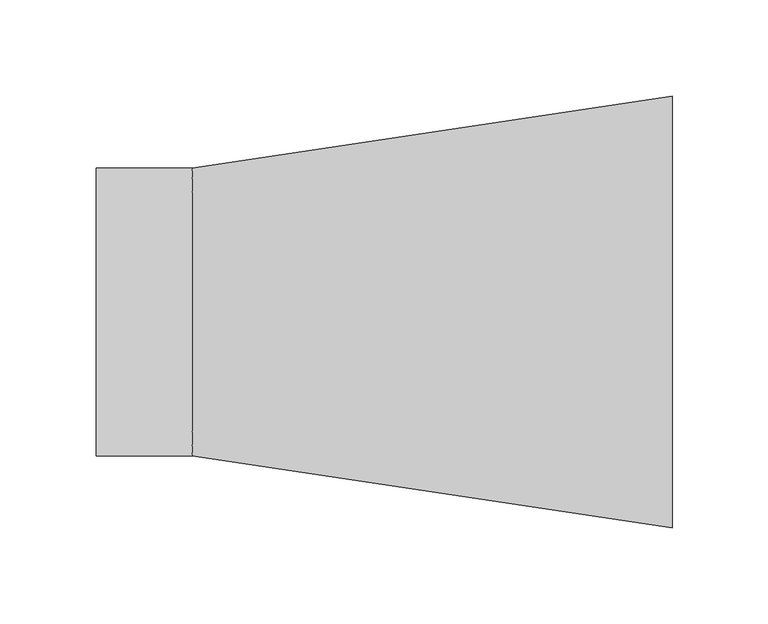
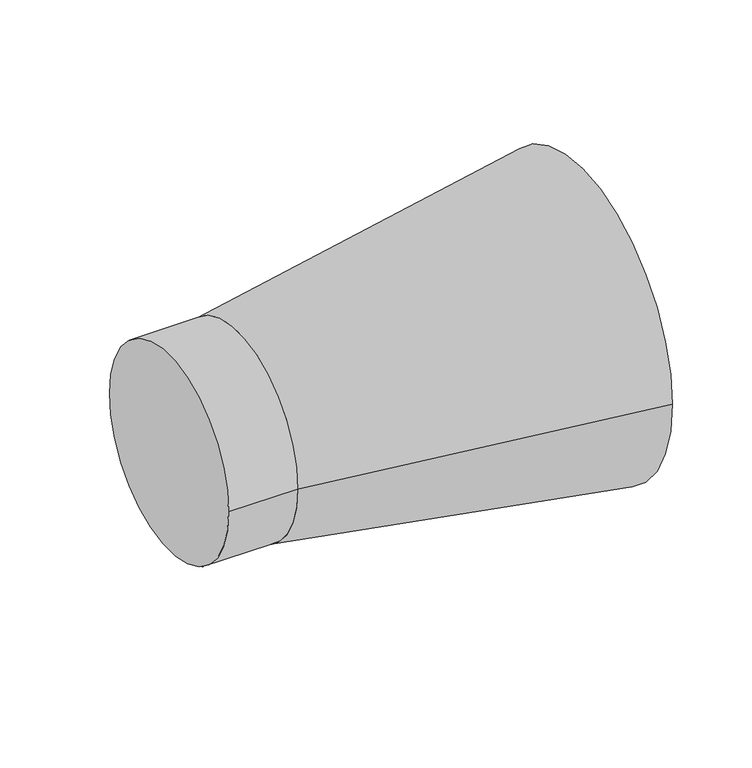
"""IFC4 building model written with IfcOpenShell, lengths in millimetres: air terminal geometry, Supply_Bell_Mouth_Grille : Supply_Bell_Mouth_Grille."""

from ifc_helpers import new_model, si_unit, point, frame, origin, origin_2d, place, context, project, spatial, polyline, circle_curve, trimmed, segment, composite_curve, outline, extrude, source, transform, mapped, element, save
from ifc_brep_helpers import plane_surface, revolved_surface, advanced_brep


def air_terminal_b88b8e4d(model_context):
    return source(origin(), model_context, "Body", "SolidModel", [
        extrude(outline(composite_curve([segment(trimmed(circle_curve(origin_2d(), 75.0), [point((-75.0, 0.0))], [point((75.0, 0.0))], False, "CARTESIAN"), True, "CONTINUOUS"), segment(trimmed(circle_curve(origin_2d(), 75.0), [point((75.0, 0.0))], [point((-75.0, 0.0))], False, "CARTESIAN"), True, "CONTINUOUS")], self_intersect=False)), frame((-50.0, 0.0, 0.0), z_axis=(1.0, 0.0, 0.0), x_axis=(0.0, 1.0, 0.0)), (0.0, 0.0, 1.0), 50.0),
        advanced_brep(
        [(250.0, -112.5, 0.0), (250.0, 112.5, 0.0), (0.0, -75.0, 0.0), (0.0, 75.0, 0.0)],
        [
            (0, 1, circle_curve(frame((250.0, 0.0, 0.0), z_axis=(1.0, 0.0, 0.0), x_axis=(0.0, -1.0, 0.0)), 112.5)),
            (1, 0, circle_curve(frame((250.0, 0.0, 0.0), z_axis=(1.0, 0.0, 0.0), x_axis=(0.0, 1.0, 0.0)), 112.5)),
            (2, 3, circle_curve(frame((0.0, 0.0, 0.0), z_axis=(-1.0, 0.0, 0.0), x_axis=(0.0, 1.0, 0.0)), 75.0)),
            (3, 2, circle_curve(frame((0.0, 0.0, 0.0), z_axis=(-1.0, 0.0, 0.0), x_axis=(0.0, -1.0, 0.0)), 75.0)),
            (3, 1),
            (0, 2),
        ],
        [
            plane_surface(frame((250.0, 0.0, 0.0), z_axis=(1.0, 0.0, 0.0), x_axis=(0.0, 0.0, -1.0))),
            plane_surface(frame((0.0, 0.0, 0.0), z_axis=(-1.0, 0.0, 0.0), x_axis=(0.0, 0.0, -1.0))),
            revolved_surface(polyline([(0.0, 75.0, 0.0), (250.0, 112.5, 0.0)]), (-500.0, 0.0, 0.0), (1.0, 0.0, 0.0)),
            revolved_surface(polyline([(0.0, -75.0, 0.0), (250.0, -112.5, 0.0)]), (-500.0, 0.0, 0.0), (1.0, 0.0, 0.0)),
        ],
        [
            (0, [[1, 2]]),
            (1, [[3, 4]]),
            (2, [[-4, 5, -1, 6]]),
            (3, [[-3, -6, -2, -5]]),
        ],
    ),
    ])


if __name__ == "__main__":
    model = new_model("IFC4")
    model_context = context("Model", 3, world=origin())
    ifc_project = project(units=[si_unit("LENGTHUNIT", "METRE", prefix="MILLI")], contexts=[model_context])
    site = spatial("IfcSite", under=ifc_project)
    building = spatial("IfcBuilding", under=site)
    placement = place(None, origin())
    air_terminal_shape = air_terminal_b88b8e4d(model_context)
    element("IfcAirTerminal", 1, ObjectType="Supply_Bell_Mouth_Grille : Supply_Bell_Mouth_Grille", at=placement, inside=building, context=model_context, shape_type="MappedRepresentation", body=[
        mapped(air_terminal_shape, transform((0.0, 0.0, 0.0), x_axis=(1.0, 0.0, 0.0), y_axis=(0.0, 1.0, 0.0), z_axis=(0.0, 0.0, 1.0))),
    ])
    save(model, "model.ifc")
